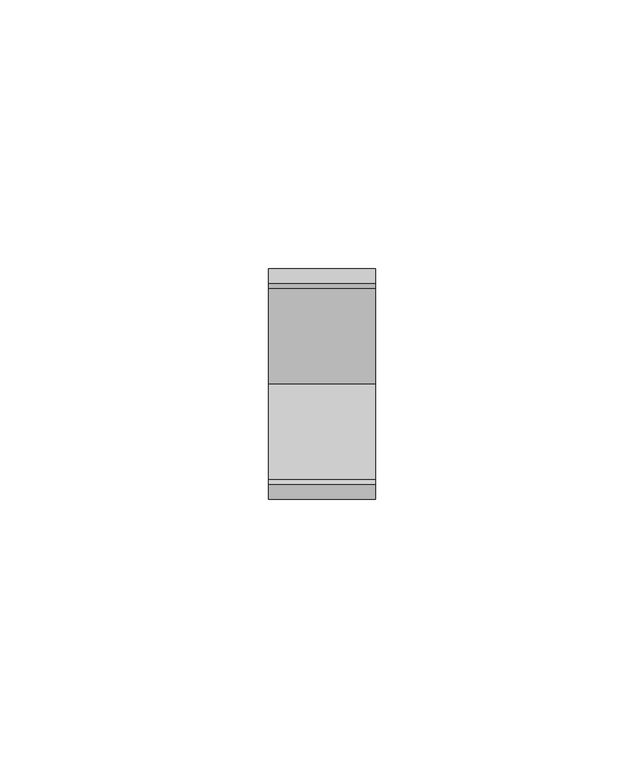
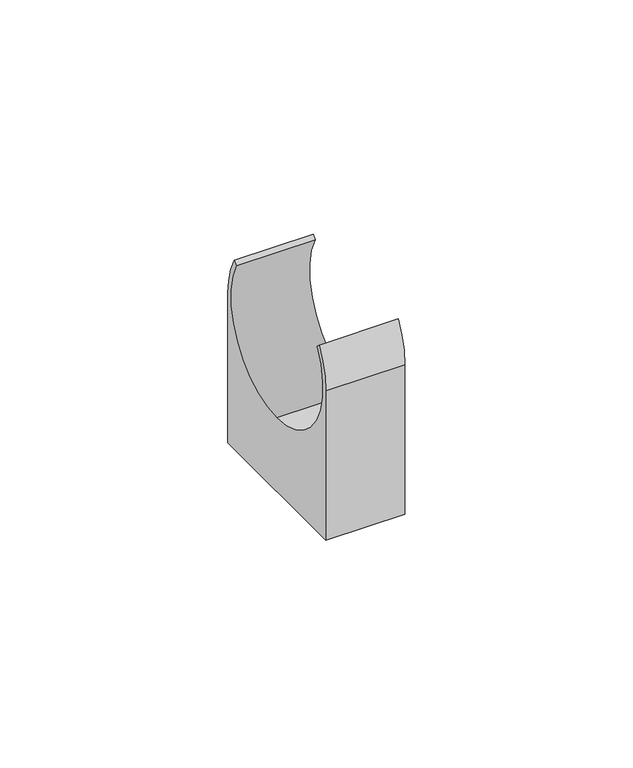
"""IFC4 building model written with IfcOpenShell, lengths in millimetres: cable carrier fitting geometry, Крепеж-клипса_для_труб : Крепеж-клипса для трубы 40мм."""

from ifc_helpers import new_model, si_unit, point, frame, origin, origin_2d, place, context, project, spatial, polyline, circle_curve, trimmed, segment, composite_curve, outline, extrude, source, transform, mapped, element, save


def cable_carrier_fitting_aa8de483(model_context):
    return source(origin(), model_context, "Body", "SweptSolid", [
        extrude(outline(composite_curve([segment(trimmed(circle_curve(origin_2d(), 20.2858161), [point((0.0, -20.2858161))], [point((17.8243712, 9.6853563))], True, "CARTESIAN"), True, "CONTINUOUS"), segment(polyline([(17.8243712, 9.6853563), (18.7175144, 10.5784996)]), True, "CONTINUOUS"), segment(trimmed(circle_curve(origin_2d(), 21.5), [point((18.7175144, 10.5784996))], [point((21.5, 0.0))], False, "CARTESIAN"), True, "CONTINUOUS"), segment(polyline([(21.5, 0.0), (21.5, -40.0), (-21.5, -40.0), (-21.5, 0.0)]), True, "CONTINUOUS"), segment(trimmed(circle_curve(origin_2d(), 21.5), [point((-21.5, 0.0))], [point((-18.7175144, 10.5784996))], False, "CARTESIAN"), True, "CONTINUOUS"), segment(polyline([(-18.7175144, 10.5784996), (-17.8243712, 9.6853563)]), True, "CONTINUOUS"), segment(trimmed(circle_curve(origin_2d(), 20.2858161), [point((-17.8243712, 9.6853563))], [point((0.0, -20.2858161))], True, "CARTESIAN"), True, "CONTINUOUS")], self_intersect=False)), frame((-10.0, 0.0, 0.0), z_axis=(1.0, 0.0, 0.0), x_axis=(0.0, 1.0, 0.0)), (0.0, 0.0, 1.0), 20.0),
    ])


if __name__ == "__main__":
    model = new_model("IFC4")
    model_context = context("Model", 3, world=origin())
    ifc_project = project(units=[si_unit("LENGTHUNIT", "METRE", prefix="MILLI")], contexts=[model_context])
    site = spatial("IfcSite", under=ifc_project)
    building = spatial("IfcBuilding", under=site)
    placement = place(None, origin())
    cable_carrier_fitting_shape = cable_carrier_fitting_aa8de483(model_context)
    element("IfcCableCarrierFitting", 1, ObjectType="Крепеж-клипса_для_труб : Крепеж-клипса для трубы 40мм", at=placement, inside=building, context=model_context, shape_type="MappedRepresentation", body=[
        mapped(cable_carrier_fitting_shape, transform((0.0, 0.0, 0.0), x_axis=(1.0, 0.0, 0.0), y_axis=(0.0, 1.0, 0.0), z_axis=(0.0, 0.0, 1.0))),
    ])
    save(model, "model.ifc")
